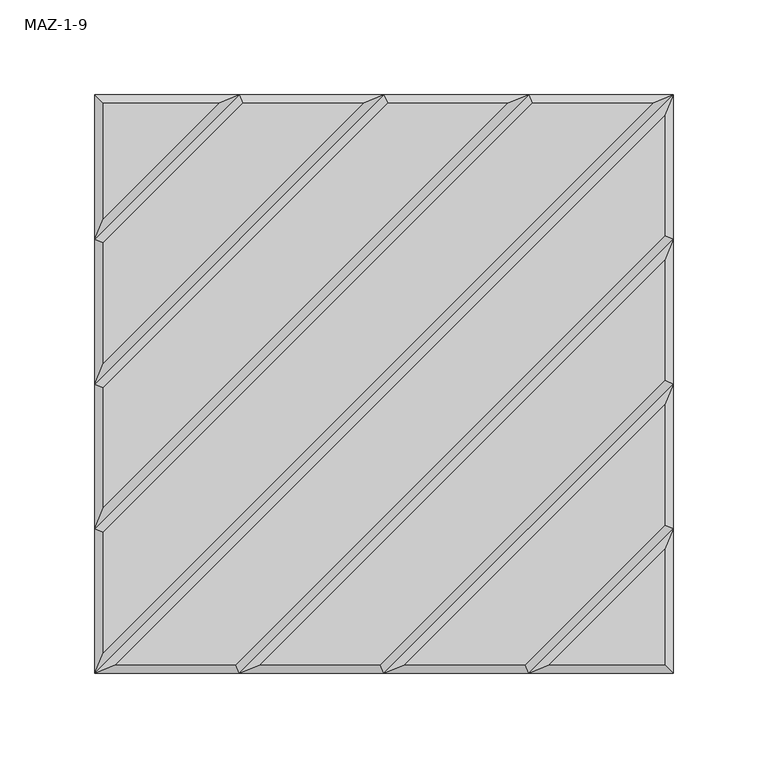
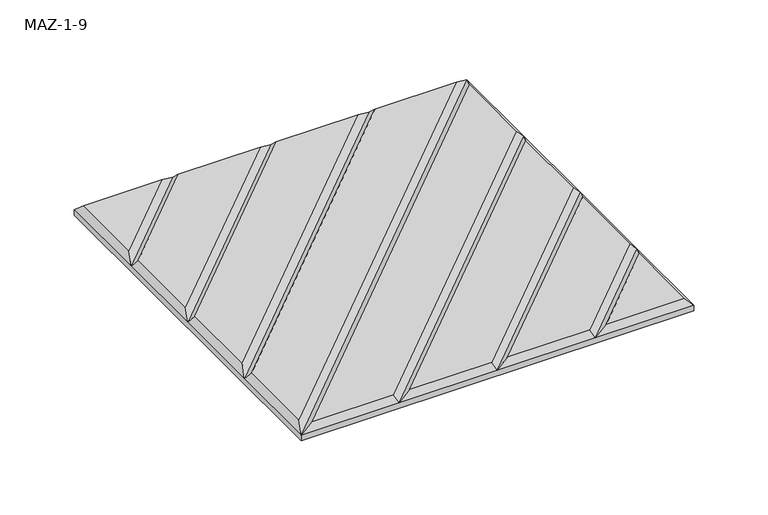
"""IFC4 building model written with IfcOpenShell, lengths in millimetres: proxy geometry, Turf_Wall Tile_Maze : MAZ-1-9."""

from ifc_helpers import new_model, si_unit, origin, place, context, project, spatial, faceted_brep, source, transform, mapped, element, save


def maz_1_9_b5213464(model_context):
    return source(origin(), model_context, "Body", "Brep", [
        faceted_brep([(-152.4, 0.0, 10.85), (-152.4, 76.2, 10.85), (-152.4, 152.4, 10.85), (-152.4, 152.4, 6.35), (-152.4, -152.4, 6.35), (-152.4, -152.4, 10.85), (-152.4, -76.2, 10.85), (76.2, 152.4, 10.85), (152.4, 152.4, 10.85), (152.4, 152.4, 6.35), (-76.2, 152.4, 10.85), (0.0, 152.4, 10.85), (-1.863961, -147.9, 15.35), (147.9, 1.863961, 15.35), (147.9, 65.336039, 15.35), (-65.336039, -147.9, 15.35), (152.4, -152.4, 6.35), (-141.536039, -147.9, 15.35), (147.9, 141.536039, 15.35), (152.4, 76.2, 10.85), (-76.2, -152.4, 10.85), (65.336039, 147.9, 15.35), (-147.9, -65.336039, 15.35), (78.063961, 147.9, 15.35), (-147.9, -78.063961, 15.35), (-147.9, -141.536039, 15.35), (141.536039, 147.9, 15.35), (-78.063961, -147.9, 15.35), (147.9, 78.063961, 15.35), (1.863961, 147.9, 15.35), (-147.9, -1.863961, 15.35), (147.9, -10.863961, 15.35), (10.863961, -147.9, 15.35), (74.336039, -147.9, 15.35), (147.9, -74.336039, 15.35), (-74.336039, 147.9, 15.35), (-147.9, 74.336039, 15.35), (-147.9, 10.863961, 15.35), (-10.863961, 147.9, 15.35), (147.9, -147.9, 15.35), (147.9, -87.063961, 15.35), (87.063961, -147.9, 15.35), (-147.9, 147.9, 15.35), (-147.9, 87.063961, 15.35), (-87.063961, 147.9, 15.35), (152.4, 0.0, 10.85), (0.0, -152.4, 10.85), (152.4, -76.2, 10.85), (76.2, -152.4, 10.85), (152.4, -152.4, 10.85)], [[[0, 1, 2, 3, 4, 5, 6]], [[7, 8, 9, 3, 2, 10, 11]], [[12, 13, 14, 15]], [[4, 3, 9, 16]], [[17, 18, 8, 5]], [[15, 14, 19, 20]], [[21, 22, 6, 7]], [[23, 24, 25, 26]], [[27, 28, 18, 17]], [[29, 30, 22, 21]], [[31, 32, 33, 34]], [[35, 36, 37, 38]], [[39, 40, 41]], [[42, 43, 44]], [[26, 25, 5, 8]], [[32, 31, 45, 46]], [[38, 37, 0, 11]], [[41, 40, 47, 48]], [[44, 43, 1, 10]], [[10, 1, 36, 35]], [[48, 47, 34, 33]], [[11, 0, 30, 29]], [[46, 45, 13, 12]], [[20, 19, 28, 27]], [[7, 6, 24, 23]], [[49, 16, 9, 8, 19, 45, 47]], [[48, 46, 20, 5, 4, 16, 49]], [[12, 15, 20, 46]], [[41, 48, 49, 39]], [[27, 17, 5, 20]], [[48, 33, 32, 46]], [[7, 23, 26, 8]], [[10, 35, 38, 11]], [[42, 44, 10, 2]], [[21, 7, 11, 29]], [[40, 39, 49, 47]], [[14, 13, 45, 19]], [[31, 34, 47, 45]], [[8, 18, 28, 19]], [[25, 24, 6, 5]], [[36, 1, 0, 37]], [[1, 43, 42, 2]], [[6, 22, 30, 0]]]),
    ])


if __name__ == "__main__":
    model = new_model("IFC4")
    model_context = context("Model", 3, world=origin())
    ifc_project = project(units=[si_unit("LENGTHUNIT", "METRE", prefix="MILLI")], contexts=[model_context])
    site = spatial("IfcSite", under=ifc_project)
    building = spatial("IfcBuilding", under=site)
    placement = place(None, origin())
    maz_1_9_shape = maz_1_9_b5213464(model_context)
    element("IfcBuildingElementProxy", 1, Name="Turf_Wall Tile_Maze : MAZ-1-9", ObjectType="Turf_Wall Tile_Maze : MAZ-1-9", at=placement, inside=building, context=model_context, shape_type="MappedRepresentation", body=[
        mapped(maz_1_9_shape, transform((0.0, 0.0, 0.0), x_axis=(1.0, 0.0, 0.0), y_axis=(0.0, 1.0, 0.0), z_axis=(0.0, 0.0, 1.0))),
    ])
    save(model, "model.ifc")
